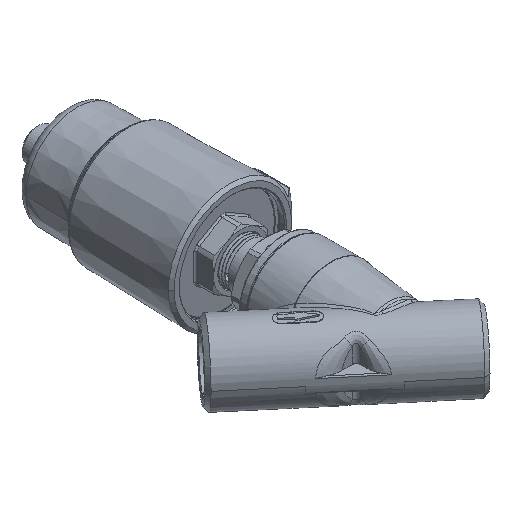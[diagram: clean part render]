
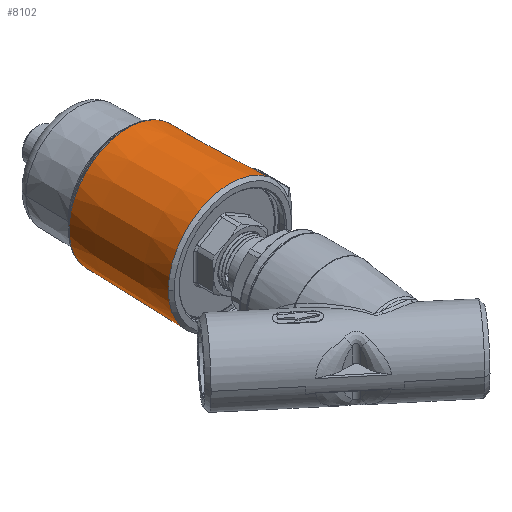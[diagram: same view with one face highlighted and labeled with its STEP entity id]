
A CAD part, isometric view. The second image highlights one B-rep face of the part: STEP entity #8102.
In plain terms, the highlighted conical face has half-angle 1.5 degrees and reference radius 29.802 mm.
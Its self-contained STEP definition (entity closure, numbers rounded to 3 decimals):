
#167=CARTESIAN_POINT('',(27.777,51.817,-8.818));
#3268=CARTESIAN_POINT('',(0.,1.462,0.));
#3269=DIRECTION('',(0.,-1.,0.));
#3270=DIRECTION('',(-1.,0.,0.));
#3271=AXIS2_PLACEMENT_3D('',#3268,#3269,#3270);
#3273=CARTESIAN_POINT('',(28.45,1.462,-10.886));
#3274=CARTESIAN_POINT('',(28.392,3.51,-10.888));
#3275=CARTESIAN_POINT('',(28.275,7.613,-10.893));
#3276=CARTESIAN_POINT('',(28.099,13.784,-10.9));
#3277=CARTESIAN_POINT('',(27.981,17.909,-10.905));
#3278=CARTESIAN_POINT('',(27.922,19.974,-10.907));
#3280=CARTESIAN_POINT('',(27.922,19.974,-10.907));
#3281=CARTESIAN_POINT('',(27.909,20.439,-10.908));
#3282=CARTESIAN_POINT('',(27.905,21.363,-10.853));
#3283=CARTESIAN_POINT('',(27.964,22.741,-10.6));
#3284=CARTESIAN_POINT('',(28.085,24.095,-10.173));
#3285=CARTESIAN_POINT('',(28.26,25.396,-9.574));
#3286=CARTESIAN_POINT('',(28.402,26.204,-9.07));
#3287=CARTESIAN_POINT('',(28.478,26.595,-8.789));
#3289=CARTESIAN_POINT('',(28.478,26.595,-8.789));
#3290=CARTESIAN_POINT('',(28.401,29.382,-8.792));
#3291=CARTESIAN_POINT('',(28.246,34.966,-8.798));
#3292=CARTESIAN_POINT('',(28.012,43.373,-8.808));
#3293=CARTESIAN_POINT('',(27.856,48.999,-8.815));
#3294=CARTESIAN_POINT('',(27.777,51.817,-8.818));
#3296=CARTESIAN_POINT('',(0.,51.817,0.));
#3297=DIRECTION('',(0.,-1.,0.));
#3298=DIRECTION('',(0.953,0.,0.303));
#3299=AXIS2_PLACEMENT_3D('',#3296,#3297,#3298);
#3301=CARTESIAN_POINT('',(27.777,51.817,8.818));
#3302=CARTESIAN_POINT('',(27.856,48.999,8.815));
#3303=CARTESIAN_POINT('',(28.012,43.373,8.808));
#3304=CARTESIAN_POINT('',(28.246,34.966,8.798));
#3305=CARTESIAN_POINT('',(28.401,29.382,8.792));
#3306=CARTESIAN_POINT('',(28.478,26.595,8.789));
#3308=CARTESIAN_POINT('',(28.478,26.595,8.789));
#3309=CARTESIAN_POINT('',(28.402,26.205,9.069));
#3310=CARTESIAN_POINT('',(28.26,25.398,9.573));
#3311=CARTESIAN_POINT('',(28.086,24.1,10.171));
#3312=CARTESIAN_POINT('',(27.964,22.748,10.598));
#3313=CARTESIAN_POINT('',(27.905,21.365,10.853));
#3314=CARTESIAN_POINT('',(27.909,20.439,10.908));
#3315=CARTESIAN_POINT('',(27.922,19.974,10.907));
#3317=CARTESIAN_POINT('',(27.922,19.974,10.907));
#3318=CARTESIAN_POINT('',(27.981,17.909,10.905));
#3319=CARTESIAN_POINT('',(28.099,13.784,10.9));
#3320=CARTESIAN_POINT('',(28.275,7.613,10.893));
#3321=CARTESIAN_POINT('',(28.392,3.51,10.888));
#3322=CARTESIAN_POINT('',(28.45,1.462,10.886));
#3324=CARTESIAN_POINT('',(0.,1.462,0.));
#3325=DIRECTION('',(0.,-1.,0.));
#3326=DIRECTION('',(0.934,0.,0.357));
#3327=AXIS2_PLACEMENT_3D('',#3324,#3325,#3326);
#3616=VERTEX_POINT('',#3308);
#3617=VERTEX_POINT('',#3315);
#3622=VERTEX_POINT('',#3301);
#3642=VERTEX_POINT('',#167);
#3644=VERTEX_POINT('',#3289);
#3648=VERTEX_POINT('',#3280);
#3862=CARTESIAN_POINT('',(-30.462,1.462,0.));
#3863=CARTESIAN_POINT('',(28.45,1.462,-10.886));
#3864=VERTEX_POINT('',#3862);
#3865=VERTEX_POINT('',#3863);
#3866=CARTESIAN_POINT('',(28.45,1.462,10.886));
#3867=VERTEX_POINT('',#3866);
#8080=CARTESIAN_POINT('',(0.,26.639,0.));
#8081=DIRECTION('',(0.,-1.,0.));
#8082=DIRECTION('',(-1.,0.,0.));
#8083=AXIS2_PLACEMENT_3D('',#8080,#8081,#8082);
#8084=CONICAL_SURFACE('',#8083,29.802,1.5);
#8085=ORIENTED_EDGE('',*,*,#8053,.T.);
#8087=ORIENTED_EDGE('',*,*,#8086,.T.);
#8089=ORIENTED_EDGE('',*,*,#8088,.T.);
#8091=ORIENTED_EDGE('',*,*,#8090,.T.);
#8092=ORIENTED_EDGE('',*,*,#4200,.F.);
#8094=ORIENTED_EDGE('',*,*,#8093,.T.);
#8096=ORIENTED_EDGE('',*,*,#8095,.T.);
#8098=ORIENTED_EDGE('',*,*,#8097,.T.);
#8099=ORIENTED_EDGE('',*,*,#8067,.T.);
#8100=EDGE_LOOP('',(#8085,#8087,#8089,#8091,#8092,#8094,#8096,#8098,#8099));
#8101=FACE_OUTER_BOUND('',#8100,.F.);
#3272=CIRCLE('',#3271,30.462);
#3279=B_SPLINE_CURVE_WITH_KNOTS('',3,(#3273,#3274,#3275,#3276,#3277,#3278),
.UNSPECIFIED.,.F.,.F.,(4,1,1,4),(0.,0.333,0.667,1.),
.UNSPECIFIED.);
#3288=B_SPLINE_CURVE_WITH_KNOTS('',3,(#3280,#3281,#3282,#3283,#3284,#3285,#3286,
#3287),.UNSPECIFIED.,.F.,.F.,(4,1,1,1,1,4),(0.,0.2,0.4,0.6,0.8,1.),
.UNSPECIFIED.);
#3295=B_SPLINE_CURVE_WITH_KNOTS('',3,(#3289,#3290,#3291,#3292,#3293,#3294),
.UNSPECIFIED.,.F.,.F.,(4,1,1,4),(0.,0.333,0.667,1.),
.UNSPECIFIED.);
#3300=CIRCLE('',#3299,29.143);
#3307=B_SPLINE_CURVE_WITH_KNOTS('',3,(#3301,#3302,#3303,#3304,#3305,#3306),
.UNSPECIFIED.,.F.,.F.,(4,1,1,4),(0.,0.333,0.667,1.),
.UNSPECIFIED.);
#3316=B_SPLINE_CURVE_WITH_KNOTS('',3,(#3308,#3309,#3310,#3311,#3312,#3313,#3314,
#3315),.UNSPECIFIED.,.F.,.F.,(4,1,1,1,1,4),(0.,0.2,0.4,0.6,0.8,1.),
.UNSPECIFIED.);
#3323=B_SPLINE_CURVE_WITH_KNOTS('',3,(#3317,#3318,#3319,#3320,#3321,#3322),
.UNSPECIFIED.,.F.,.F.,(4,1,1,4),(0.,0.333,0.667,1.),
.UNSPECIFIED.);
#3328=CIRCLE('',#3327,30.462);
#4200=EDGE_CURVE('',#3622,#3642,#3300,.T.);
#8053=EDGE_CURVE('',#3864,#3865,#3272,.T.);
#8067=EDGE_CURVE('',#3867,#3864,#3328,.T.);
#8086=EDGE_CURVE('',#3865,#3648,#3279,.T.);
#8088=EDGE_CURVE('',#3648,#3644,#3288,.T.);
#8090=EDGE_CURVE('',#3644,#3642,#3295,.T.);
#8093=EDGE_CURVE('',#3622,#3616,#3307,.T.);
#8095=EDGE_CURVE('',#3616,#3617,#3316,.T.);
#8097=EDGE_CURVE('',#3617,#3867,#3323,.T.);
#8102=ADVANCED_FACE('',(#8101),#8084,.T.);
